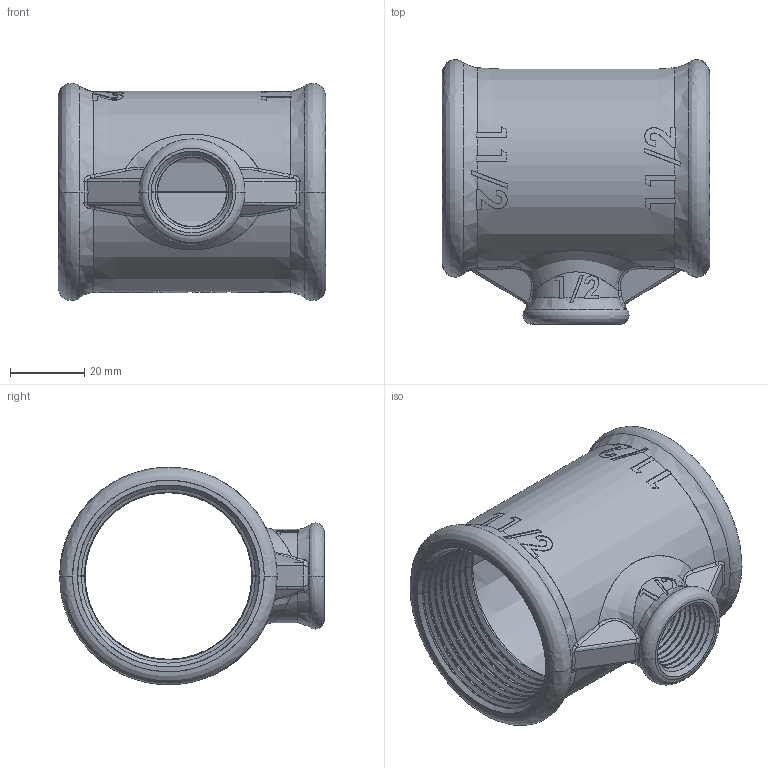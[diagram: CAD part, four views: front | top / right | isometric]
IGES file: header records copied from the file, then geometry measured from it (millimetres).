
Start section: SolidWorks IGES file using analytic representation for surfaces
Global section: file name: C:\Users\Joel Rosa\Desktop\Tubulação\12-45-XXX\12-45-039.IGS; native system: SolidWorks 2011; preprocessor: SolidWorks 2011; author: Joel Rosa; date: 121212.233653; units: millimetre
Bounding box: 72 x 71.3 x 58.6 mm (x, y, z)
Surface area: 30839 mm2 (no closed solid volume)
Topology: 0 solids, 0 shells, 477 faces, 4615 edges, 4615 vertices
Faces by surface type: bspline 344, revolution 133
